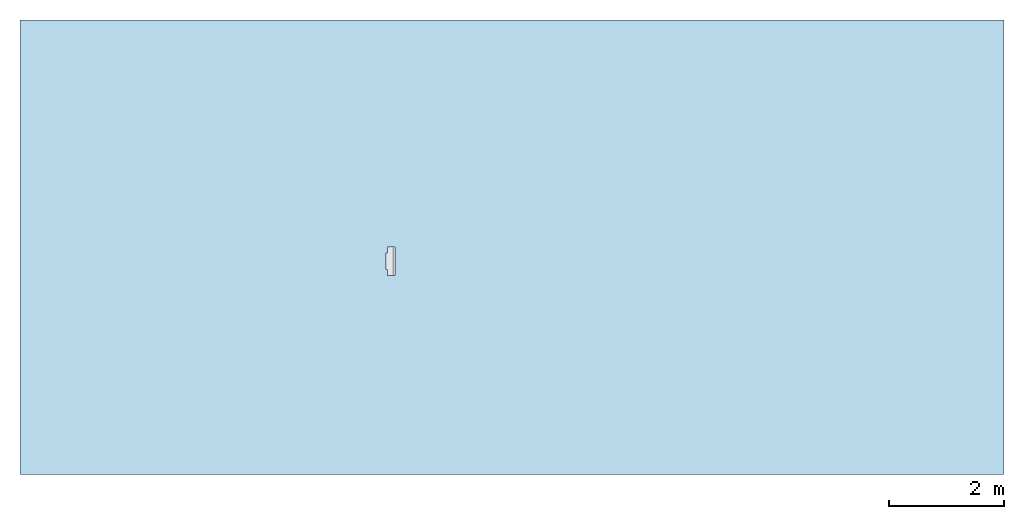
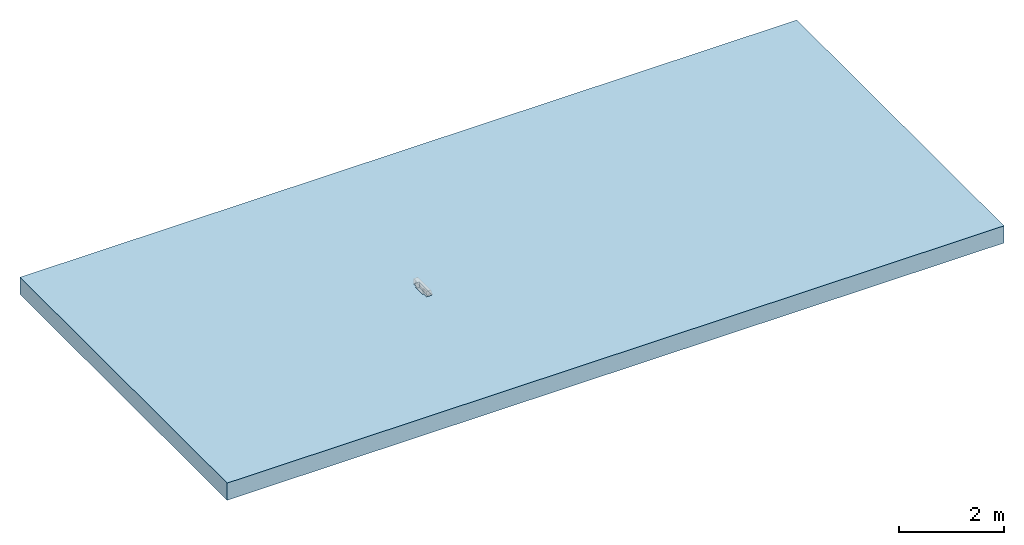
# One storey, part 1 of 2: 1 slab, 2 openings.
"""IFC2X3 building model written with IfcOpenShell, lengths in millimetres."""

from ifc_helpers import new_model, entity, si_unit, converted_unit, direction, frame, frame_2d, origin, origin_2d_with_axis, place, context, subcontext, project, spatial, rectangle, extrude, faceted_brep, material, layer, layer_set, layer_usage, element, save


model = new_model("IFC2X3")

# Units and contexts
model_context = context("Model", 3, precision=1e-06, world=origin(), true_north=direction((2.0, 6.12303176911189e-17, 1.0)))
context_of_model = context(None, 3, precision=1e-06, world=origin(), true_north=direction((2.0, 6.12303176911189e-17, 1.0)))
body_context = subcontext(model_context, "Body", "Model", "MODEL_VIEW")
ifc_project = project(units=[si_unit("LENGTHUNIT", "METRE", prefix="MILLI"), si_unit("AREAUNIT", "SQUARE_METRE", prefix="MILLI"), si_unit("VOLUMEUNIT", "CUBIC_METRE", prefix="MILLI"), converted_unit("PLANEANGLEUNIT", "DEGREE", entity("IfcRatioMeasure", 0.0174532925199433), si_unit("PLANEANGLEUNIT", "RADIAN"), dimensions=[0, 0, 0, 0, 0, 0, 0]), si_unit("TIMEUNIT", "SECOND")], contexts=[model_context, context_of_model])

# Site, building, storey
site_placement = place(None, origin())
site = spatial("IfcSite", under=ifc_project, at=site_placement, Name="Default", CompositionType="ELEMENT")
building_placement = place(site_placement, origin())
building = spatial("IfcBuilding", under=site, at=building_placement, CompositionType="ELEMENT")
storey_placement = place(building_placement, origin())
storey = spatial("IfcBuildingStorey", under=building, at=storey_placement, Name="Level 1", CompositionType="ELEMENT", Elevation=0.0)

# Slab, openings
ifc_material = material(Name="Plant")
ifc_layer = layer(ifc_material, 400.0)
ifc_layer_set = layer_set([ifc_layer], Name="Floor:Generic Floor - 400mm")
ifc_layer_usage = layer_usage(ifc_layer_set, "AXIS3", "POSITIVE", 0.0)
slab_placement = place(storey_placement, origin())
slab = element("IfcSlab", 1, at=slab_placement, inside=storey, material=ifc_layer_usage, Name="Floor:Generic Floor - 400mm", ObjectType="Floor:Generic Floor - 400mm", PredefinedType="FLOOR", context=body_context, shape_type="SweptSolid", body=[
    extrude(rectangle(XDim=7900.0, YDim=17100.0, at=frame_2d((0.0, 0.0), x_axis=(0.0, -1.0))), frame((-8097.86261836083, 1059.07636553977, 0.0), z_axis=(0.0, 0.0, -1.0), x_axis=(-1.0, 0.0, 0.0)), (0.0, 0.0, 1.0), 400.0),
])
opening_1_placement = place(slab_placement, frame((-10284.2763205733, 567.017866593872, -130.0)))
element("IfcOpeningElement", 2, at=opening_1_placement, cuts=slab, ObjectType="Recess", context=body_context, shape_type="SweptSolid", body=[
    extrude(rectangle(XDim=1000.0, YDim=150.000000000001, at=origin_2d_with_axis()), frame((-10196.2247971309, 1067.01786659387, -2005.0), z_axis=(0.0, 0.0, 1.0), x_axis=(0.0, -1.0, 0.0)), (0.0, 0.0, 1.0), 4.99999999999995),
])
opening_2_placement = place(slab_placement, frame((-10284.2763205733, 567.017866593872, -130.0)))
element("IfcOpeningElement", 3, at=opening_2_placement, cuts=slab, ObjectType="Recess", context=body_context, shape_type="Brep", body=[
    faceted_brep([(25.5515234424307, 500.0, 0.0), (25.5515234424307, 500.0, 130.0), (25.5515234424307, 390.350941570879, 130.0), (25.5515234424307, 390.350941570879, 0.0), (25.5515234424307, 0.0, 0.0), (25.5515234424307, 110.0, 130.0), (25.5515234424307, 0.0, 130.0), (25.5515234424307, 110.0, 0.0), (150.55152344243, 500.0, 130.0), (150.55152344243, 0.0, 130.0), (0.0, 390.350941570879, 0.0), (0.0, 110.0, 0.0), (150.55152344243, 500.0, 0.0), (150.55152344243, 0.0, 0.0), (0.0, 390.350941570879, 255.0), (0.0, 110.0, 255.0), (25.5515234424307, 110.0, 255.0), (25.5515234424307, 390.350941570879, 255.0)], [[[0, 1, 2]], [[2, 3, 0]], [[4, 5, 6]], [[5, 4, 7]], [[5, 8, 9]], [[2, 8, 5]], [[6, 5, 9]], [[8, 2, 1]], [[7, 10, 11]], [[7, 12, 3]], [[0, 3, 12]], [[4, 13, 7]], [[12, 7, 13]], [[10, 7, 3]], [[12, 8, 1]], [[1, 0, 12]], [[4, 6, 9]], [[9, 13, 4]], [[13, 9, 8]], [[8, 12, 13]], [[14, 15, 11]], [[11, 10, 14]], [[16, 17, 2]], [[2, 5, 16]], [[14, 17, 16]], [[16, 15, 14]], [[11, 15, 5]], [[16, 5, 15]], [[7, 11, 5]], [[14, 10, 2]], [[3, 2, 10]], [[17, 14, 2]]]),
])

save(model, "model.ifc")
